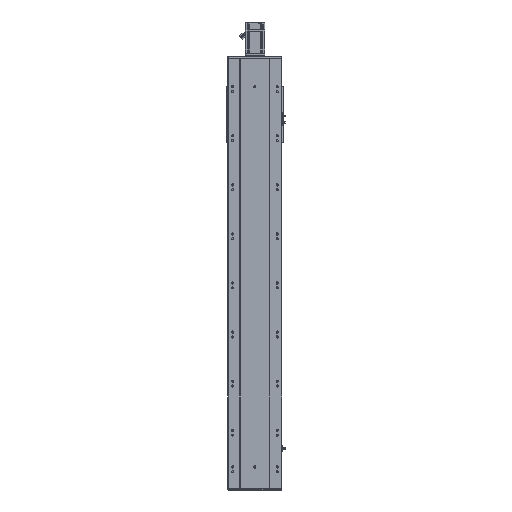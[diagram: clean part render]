
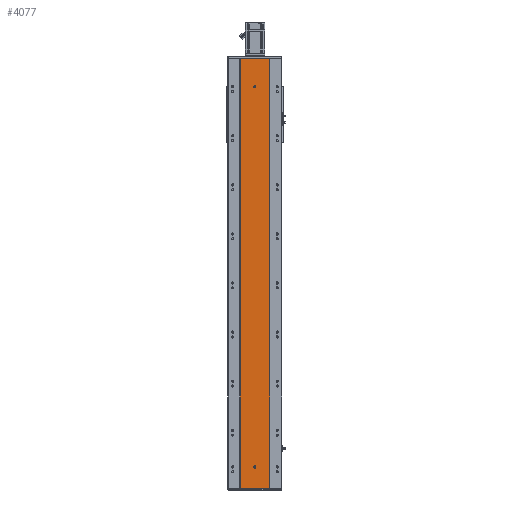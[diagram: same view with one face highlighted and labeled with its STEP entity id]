
A CAD part, front view. The second image highlights one B-rep face of the part: STEP entity #4077.
In plain terms, the highlighted planar face has unit normal (0, -1, 0).
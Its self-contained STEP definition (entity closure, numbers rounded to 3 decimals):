
#22 = CARTESIAN_POINT ( 'NONE',  ( 60., 0., 0. ) ) ;
#95 = DIRECTION ( 'NONE',  ( 0., -1., 0. ) ) ;
#1521 = EDGE_CURVE ( 'NONE', #28210, #46174, #73973, .T. ) ;
#2369 = VERTEX_POINT ( 'NONE', #34277 ) ;
#3052 = EDGE_LOOP ( 'NONE', ( #34247, #22255 ) ) ;
#3062 = EDGE_CURVE ( 'NONE', #2369, #32772, #44614, .T. ) ;
#3824 = CARTESIAN_POINT ( 'NONE',  ( -4., 0., 84.5 ) ) ;
#4077 = ADVANCED_FACE ( 'NONE', ( #11727, #24431, #41702 ), #55055, .F. ) ;
#4124 = CARTESIAN_POINT ( 'NONE',  ( -60., 0., 0. ) ) ;
#4710 = CARTESIAN_POINT ( 'NONE',  ( 60., 0., 1750. ) ) ;
#5778 = CIRCLE ( 'NONE', #27258, 4. ) ;
#5781 = VERTEX_POINT ( 'NONE', #61361 ) ;
#7927 = CARTESIAN_POINT ( 'NONE',  ( 0., 0., 1636. ) ) ;
#8557 = ORIENTED_EDGE ( 'NONE', *, *, #33840, .T. ) ;
#9004 = CIRCLE ( 'NONE', #13321, 4. ) ;
#9652 = CIRCLE ( 'NONE', #41283, 4. ) ;
#9848 = DIRECTION ( 'NONE',  ( 0., 0., -1. ) ) ;
#10563 = ORIENTED_EDGE ( 'NONE', *, *, #30943, .F. ) ;
#10630 = CARTESIAN_POINT ( 'NONE',  ( 4., 0., 84.5 ) ) ;
#11727 = FACE_BOUND ( 'NONE', #3052, .T. ) ;
#12147 = CARTESIAN_POINT ( 'NONE',  ( 0., 0., 84.5 ) ) ;
#12411 = DIRECTION ( 'NONE',  ( 0., 0., -1. ) ) ;
#12527 = CARTESIAN_POINT ( 'NONE',  ( 0., 0., 1640. ) ) ;
#13289 = DIRECTION ( 'NONE',  ( 0., -1., 0. ) ) ;
#13321 = AXIS2_PLACEMENT_3D ( 'NONE', #23587, #64546, #12411 ) ;
#14806 = DIRECTION ( 'NONE',  ( 0., -1., 0. ) ) ;
#16137 = CIRCLE ( 'NONE', #47105, 4. ) ;
#18502 = ORIENTED_EDGE ( 'NONE', *, *, #34868, .F. ) ;
#20890 = DIRECTION ( 'NONE',  ( 0., 0., -1. ) ) ;
#21435 = CARTESIAN_POINT ( 'NONE',  ( -60., 0., 1750. ) ) ;
#21851 = CIRCLE ( 'NONE', #74279, 4. ) ;
#22255 = ORIENTED_EDGE ( 'NONE', *, *, #43544, .F. ) ;
#22833 = CARTESIAN_POINT ( 'NONE',  ( 60., 0., 1750. ) ) ;
#23530 = DIRECTION ( 'NONE',  ( 0., 0., -1. ) ) ;
#23587 = CARTESIAN_POINT ( 'NONE',  ( 0., 0., 84.5 ) ) ;
#24431 = FACE_BOUND ( 'NONE', #27262, .T. ) ;
#25987 = DIRECTION ( 'NONE',  ( 0., 0., -1. ) ) ;
#27258 = AXIS2_PLACEMENT_3D ( 'NONE', #41297, #95, #23530 ) ;
#27262 = EDGE_LOOP ( 'NONE', ( #18502, #68308, #53966, #29683, #10563 ) ) ;
#28210 = VERTEX_POINT ( 'NONE', #50340 ) ;
#28728 = EDGE_CURVE ( 'NONE', #46174, #32772, #41246, .T. ) ;
#29096 = CARTESIAN_POINT ( 'NONE',  ( -60., 0., 1750. ) ) ;
#29683 = ORIENTED_EDGE ( 'NONE', *, *, #53840, .F. ) ;
#30943 = EDGE_CURVE ( 'NONE', #5781, #32368, #21851, .T. ) ;
#31468 = LINE ( 'NONE', #60773, #75103 ) ;
#32368 = VERTEX_POINT ( 'NONE', #67163 ) ;
#32772 = VERTEX_POINT ( 'NONE', #22 ) ;
#33209 = VERTEX_POINT ( 'NONE', #50109 ) ;
#33840 = EDGE_CURVE ( 'NONE', #28210, #2369, #57083, .T. ) ;
#34247 = ORIENTED_EDGE ( 'NONE', *, *, #36131, .F. ) ;
#34277 = CARTESIAN_POINT ( 'NONE',  ( -60., 0., 0. ) ) ;
#34868 = EDGE_CURVE ( 'NONE', #67389, #5781, #31468, .T. ) ;
#35624 = CARTESIAN_POINT ( 'NONE',  ( 0., 0., 80.5 ) ) ;
#36131 = EDGE_CURVE ( 'NONE', #33209, #68466, #5778, .T. ) ;
#37365 = AXIS2_PLACEMENT_3D ( 'NONE', #21435, #62144, #74086 ) ;
#40865 = DIRECTION ( 'NONE',  ( 0., 0., -1. ) ) ;
#41246 = LINE ( 'NONE', #4710, #72236 ) ;
#41283 = AXIS2_PLACEMENT_3D ( 'NONE', #7927, #13289, #25987 ) ;
#41297 = CARTESIAN_POINT ( 'NONE',  ( 0., 0., 1636. ) ) ;
#41702 = FACE_OUTER_BOUND ( 'NONE', #64347, .T. ) ;
#41910 = ORIENTED_EDGE ( 'NONE', *, *, #28728, .F. ) ;
#43422 = DIRECTION ( 'NONE',  ( 0., 0., 1. ) ) ;
#43544 = EDGE_CURVE ( 'NONE', #68466, #33209, #9652, .T. ) ;
#44614 = LINE ( 'NONE', #4124, #58306 ) ;
#44658 = CARTESIAN_POINT ( 'NONE',  ( -60., 0., 1750. ) ) ;
#44826 = VECTOR ( 'NONE', #58098, 1000. ) ;
#46174 = VERTEX_POINT ( 'NONE', #22833 ) ;
#47105 = AXIS2_PLACEMENT_3D ( 'NONE', #12147, #58710, #40865 ) ;
#48965 = ORIENTED_EDGE ( 'NONE', *, *, #3062, .T. ) ;
#50109 = CARTESIAN_POINT ( 'NONE',  ( 0., 0., 1632. ) ) ;
#50340 = CARTESIAN_POINT ( 'NONE',  ( -60., 0., 1750. ) ) ;
#50369 = CARTESIAN_POINT ( 'NONE',  ( 0., 0., 87.5 ) ) ;
#51603 = VECTOR ( 'NONE', #9848, 1000. ) ;
#53800 = ORIENTED_EDGE ( 'NONE', *, *, #1521, .F. ) ;
#53840 = EDGE_CURVE ( 'NONE', #32368, #72296, #54842, .T. ) ;
#53966 = ORIENTED_EDGE ( 'NONE', *, *, #61406, .F. ) ;
#54842 = LINE ( 'NONE', #3824, #68430 ) ;
#55055 = PLANE ( 'NONE',  #37365 ) ;
#55516 = DIRECTION ( 'NONE',  ( 0., 0., -1. ) ) ;
#56073 = CARTESIAN_POINT ( 'NONE',  ( -4., 0., 84.5 ) ) ;
#57083 = LINE ( 'NONE', #44658, #51603 ) ;
#58098 = DIRECTION ( 'NONE',  ( 1., 0., 0. ) ) ;
#58306 = VECTOR ( 'NONE', #68203, 1000. ) ;
#58710 = DIRECTION ( 'NONE',  ( 0., -1., 0. ) ) ;
#60773 = CARTESIAN_POINT ( 'NONE',  ( 4., 0., 84.5 ) ) ;
#61361 = CARTESIAN_POINT ( 'NONE',  ( 4., 0., 87.5 ) ) ;
#61406 = EDGE_CURVE ( 'NONE', #72296, #63528, #16137, .T. ) ;
#62144 = DIRECTION ( 'NONE',  ( 0., 1., 0. ) ) ;
#63528 = VERTEX_POINT ( 'NONE', #35624 ) ;
#64347 = EDGE_LOOP ( 'NONE', ( #48965, #41910, #53800, #8557 ) ) ;
#64546 = DIRECTION ( 'NONE',  ( 0., -1., 0. ) ) ;
#66091 = EDGE_CURVE ( 'NONE', #63528, #67389, #9004, .T. ) ;
#67163 = CARTESIAN_POINT ( 'NONE',  ( -4., 0., 87.5 ) ) ;
#67389 = VERTEX_POINT ( 'NONE', #10630 ) ;
#68203 = DIRECTION ( 'NONE',  ( 1., 0., 0. ) ) ;
#68308 = ORIENTED_EDGE ( 'NONE', *, *, #66091, .F. ) ;
#68430 = VECTOR ( 'NONE', #20890, 1000. ) ;
#68466 = VERTEX_POINT ( 'NONE', #12527 ) ;
#72236 = VECTOR ( 'NONE', #74416, 1000. ) ;
#72296 = VERTEX_POINT ( 'NONE', #56073 ) ;
#73973 = LINE ( 'NONE', #29096, #44826 ) ;
#74086 = DIRECTION ( 'NONE',  ( 0., 0., 1. ) ) ;
#74279 = AXIS2_PLACEMENT_3D ( 'NONE', #50369, #14806, #55516 ) ;
#74416 = DIRECTION ( 'NONE',  ( 0., 0., -1. ) ) ;
#75103 = VECTOR ( 'NONE', #43422, 1000. ) ;
